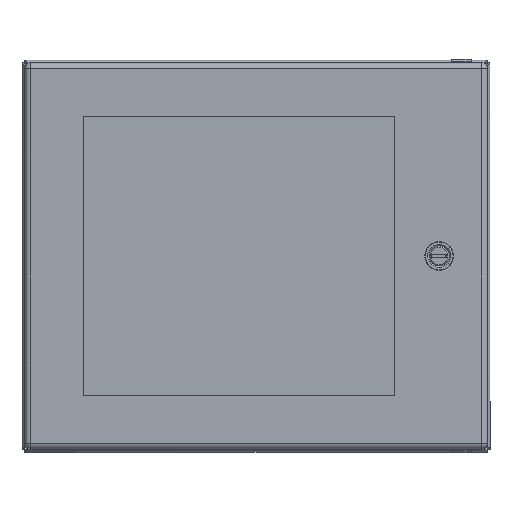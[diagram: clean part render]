
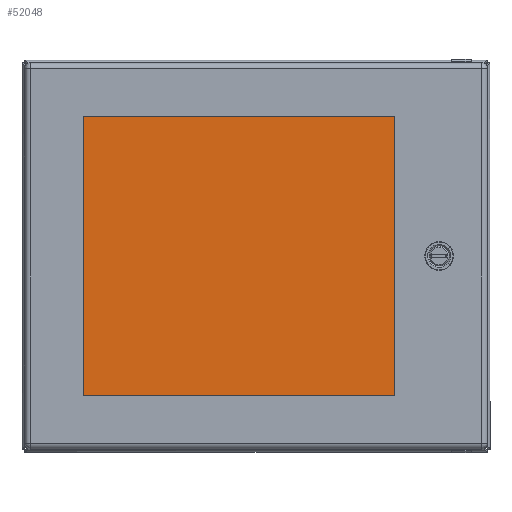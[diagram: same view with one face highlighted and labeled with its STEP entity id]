
A CAD part, top view. The second image highlights one B-rep face of the part: STEP entity #52048.
In plain terms, the highlighted planar face has unit normal (0, 0, 1).
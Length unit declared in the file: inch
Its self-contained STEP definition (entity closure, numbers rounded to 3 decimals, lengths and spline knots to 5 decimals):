
#1263 = PLANE ( 'NONE',  #19655 ) ;
#1432 = VECTOR ( 'NONE', #31368, 39.37008 ) ;
#2911 = CARTESIAN_POINT ( 'NONE',  ( -4.8385, 4.326, 0.23 ) ) ;
#4228 = FACE_OUTER_BOUND ( 'NONE', #59482, .T. ) ;
#6041 = CARTESIAN_POINT ( 'NONE',  ( 4.8385, 4.326, 0.23 ) ) ;
#7396 = VERTEX_POINT ( 'NONE', #57519 ) ;
#7921 = DIRECTION ( 'NONE',  ( 0., -1., 0. ) ) ;
#11361 = VERTEX_POINT ( 'NONE', #23281 ) ;
#12165 = ORIENTED_EDGE ( 'NONE', *, *, #28635, .T. ) ;
#13869 = LINE ( 'NONE', #44324, #63673 ) ;
#16152 = EDGE_CURVE ( 'NONE', #51325, #29077, #13869, .T. ) ;
#16317 = DIRECTION ( 'NONE',  ( 0., 0., -1. ) ) ;
#16754 = CARTESIAN_POINT ( 'NONE',  ( -5.1875, 4.675, 0.23 ) ) ;
#19110 = EDGE_CURVE ( 'NONE', #11361, #51325, #62639, .T. ) ;
#19655 = AXIS2_PLACEMENT_3D ( 'NONE', #16754, #16317, #36126 ) ;
#23249 = LINE ( 'NONE', #41345, #1432 ) ;
#23281 = CARTESIAN_POINT ( 'NONE',  ( -4.8385, -4.326, 0.23 ) ) ;
#28635 = EDGE_CURVE ( 'NONE', #29077, #7396, #23249, .T. ) ;
#29077 = VERTEX_POINT ( 'NONE', #6041 ) ;
#29985 = VECTOR ( 'NONE', #33033, 39.37008 ) ;
#31207 = VECTOR ( 'NONE', #7921, 39.37008 ) ;
#31368 = DIRECTION ( 'NONE',  ( -1., 0., 0. ) ) ;
#31691 = ORIENTED_EDGE ( 'NONE', *, *, #16152, .T. ) ;
#33033 = DIRECTION ( 'NONE',  ( 1., 0., 0. ) ) ;
#36126 = DIRECTION ( 'NONE',  ( -1., 0., 0. ) ) ;
#38015 = CARTESIAN_POINT ( 'NONE',  ( -4.8385, -4.326, 0.23 ) ) ;
#39594 = ORIENTED_EDGE ( 'NONE', *, *, #61702, .T. ) ;
#41345 = CARTESIAN_POINT ( 'NONE',  ( -4.8385, 4.326, 0.23 ) ) ;
#44231 = CARTESIAN_POINT ( 'NONE',  ( 4.8385, -4.326, 0.23 ) ) ;
#44324 = CARTESIAN_POINT ( 'NONE',  ( 4.8385, 4.326, 0.23 ) ) ;
#51325 = VERTEX_POINT ( 'NONE', #44231 ) ;
#52048 = ADVANCED_FACE ( 'NONE', ( #4228 ), #1263, .F. ) ;
#53709 = DIRECTION ( 'NONE',  ( 0., 1., 0. ) ) ;
#53785 = LINE ( 'NONE', #2911, #31207 ) ;
#57519 = CARTESIAN_POINT ( 'NONE',  ( -4.8385, 4.326, 0.23 ) ) ;
#59482 = EDGE_LOOP ( 'NONE', ( #39594, #62488, #31691, #12165 ) ) ;
#61702 = EDGE_CURVE ( 'NONE', #7396, #11361, #53785, .T. ) ;
#62488 = ORIENTED_EDGE ( 'NONE', *, *, #19110, .T. ) ;
#62639 = LINE ( 'NONE', #38015, #29985 ) ;
#63673 = VECTOR ( 'NONE', #53709, 39.37008 ) ;
